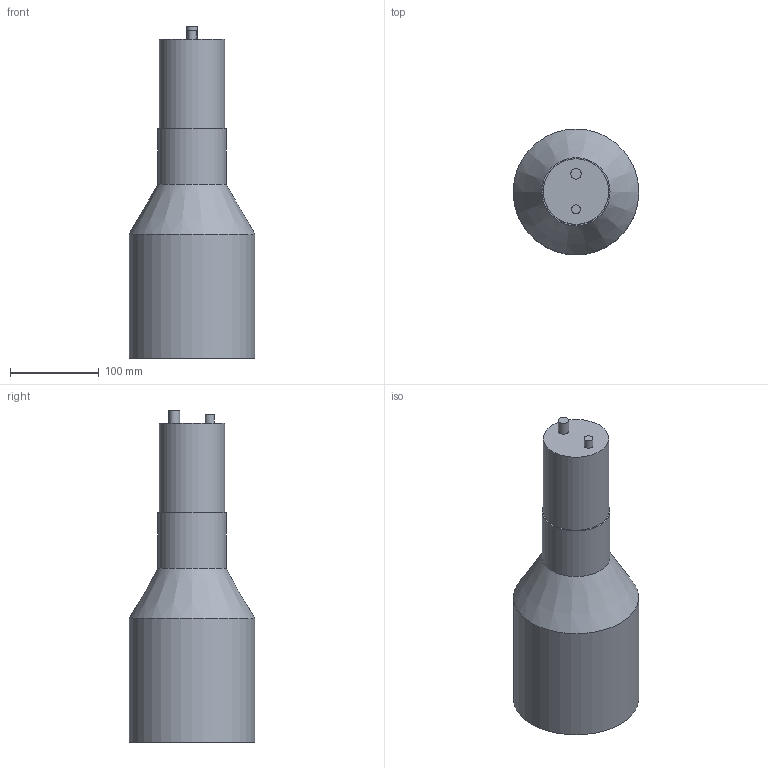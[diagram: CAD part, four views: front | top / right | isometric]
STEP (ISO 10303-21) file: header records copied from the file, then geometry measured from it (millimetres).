
FILE_DESCRIPTION( ( 'Unknown' ), '1' );
FILE_NAME( 'C:/Users/Lee/Documents/HGC Work/Solid Edge/heavy_gas_cherenkov_v5/step/pmt.stp', 'Unknown', ( 'Unknown' ), ( 'Unknown' ), 'PSStep 13.0', 'Unknown', ' ' );
FILE_SCHEMA( ( 'AUTOMOTIVE_DESIGN { 1 0 10303 214 1 1 1 1 }' ) );
Length unit declared in the file: millimetre
Products named in the file (1): 1
Bounding box: 142 x 142 x 375 mm (x, y, z)
Volume: 3343376.3 mm3; surface area: 153412.3 mm2
Topology: 1 solids, 1 shells, 14 faces, 24 edges, 16 vertices
Faces by surface type: plane 6, cylinder 6, bspline 1, cone 1
Full cylindrical faces by diameter (mm): 10 x1, 12 x1, 74 x1, 77 x1, 133 x1, 142 x1
Entity records: 429 total; most frequent: CARTESIAN_POINT 69, DIRECTION 54, AXIS2_PLACEMENT_3D 27, EDGE_LOOP 26, ORIENTED_EDGE 26, FACE_OUTER_BOUND 20, STYLED_ITEM 14, PRESENTATION_STYLE_ASSIGNMENT 14
